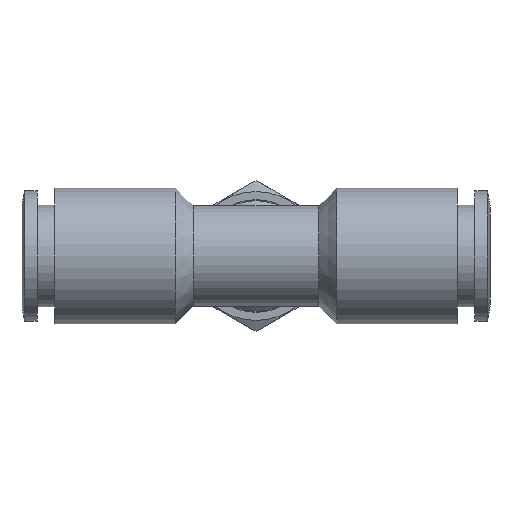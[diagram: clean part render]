
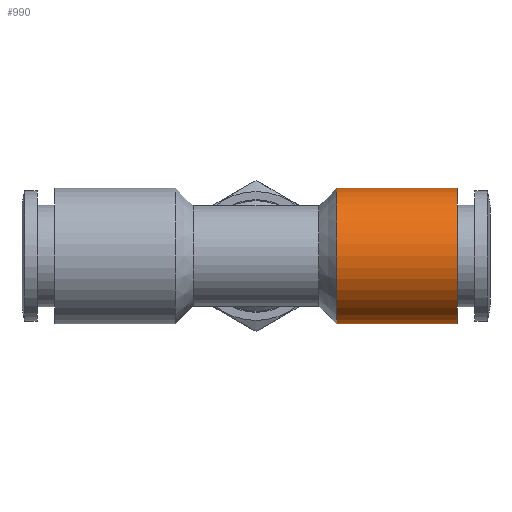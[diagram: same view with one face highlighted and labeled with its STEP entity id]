
A CAD part, left-side view. The second image highlights one B-rep face of the part: STEP entity #990.
In plain terms, the highlighted cylindrical face has radius 6.75 mm (diameter 13.5 mm), a full revolution.
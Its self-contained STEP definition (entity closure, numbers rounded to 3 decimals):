
#948=CARTESIAN_POINT('',(6.75,-8.,0.0));
#949=VERTEX_POINT('',#948);
#950=CARTESIAN_POINT('',(0.,-8.,0.0));
#951=DIRECTION('',(0.0,-1.0,0.0));
#952=DIRECTION('',(1.0,0.0,0.0));
#953=AXIS2_PLACEMENT_3D('',#950,#951,#952);
#954=CIRCLE('',#953,6.75);
#955=EDGE_CURVE('',#949,#949,#954,.T.);
#971=CARTESIAN_POINT('',(0.,-14.0,0.0));
#972=DIRECTION('',(0.,-1.0,0.0));
#973=DIRECTION('',(1.0,0.0,0.0));
#974=AXIS2_PLACEMENT_3D('',#971,#972,#973);
#975=CYLINDRICAL_SURFACE('',#974,6.75);
#976=CARTESIAN_POINT('',(6.75,-20.0,0.0));
#977=VERTEX_POINT('',#976);
#978=CARTESIAN_POINT('',(0.,-20.0,0.0));
#979=DIRECTION('',(0.0,-1.0,0.0));
#980=DIRECTION('',(1.0,0.0,0.0));
#981=AXIS2_PLACEMENT_3D('',#978,#979,#980);
#982=CIRCLE('',#981,6.75);
#983=EDGE_CURVE('',#977,#977,#982,.T.);
#984=ORIENTED_EDGE('',*,*,#983,.F.);
#985=EDGE_LOOP('',(#984));
#986=FACE_OUTER_BOUND('',#985,.T.);
#987=ORIENTED_EDGE('',*,*,#955,.T.);
#988=EDGE_LOOP('',(#987));
#989=FACE_BOUND('',#988,.T.);
#990=ADVANCED_FACE('',(#986,#989),#975,.T.);
